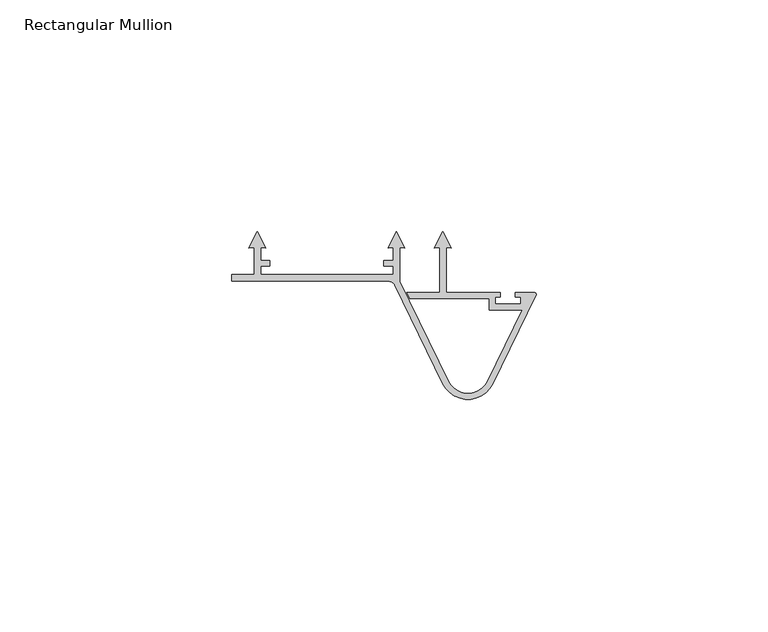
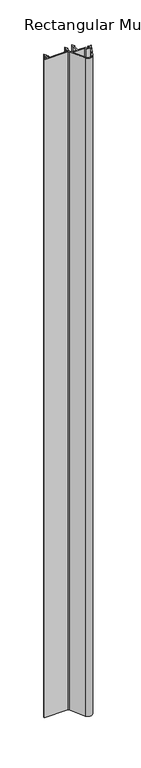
"""IFC4 building model written with IfcOpenShell, lengths in millimetres: member geometry, Rectangular Mullion : Renson_Linarte_LA-CO-05."""

from ifc_helpers import new_model, si_unit, point, frame, frame_2d, origin, place, context, project, spatial, polyline, circle_curve, trimmed, segment, composite_curve, outline, extrude, source, transform, mapped, element, save


def rectangular_mullion_05be598c(model_context):
    return source(origin(), model_context, "Body", "SweptSolid", [
        extrude(outline(composite_curve([segment(polyline([(5.5, -25.4000002), (7.3157366, -28.9635877), (6.1999999, -28.8659734), (6.1999999, -31.6000001), (8.1999999, -31.6000001), (8.1999999, -32.8000002), (6.1999999, -32.8000002), (6.1999999, -34.6000004), (34.799999, -34.6000004), (34.799999, -32.8000002), (32.799999, -32.8000002), (32.799999, -31.6000001), (34.799999, -31.6000001), (34.799999, -28.8659734), (33.6842623, -28.9635877), (35.4999989, -25.4000002), (37.3157355, -28.9635877), (36.1999979, -28.8659733), (36.1999979, -36.1638661), (46.684531, -57.6603446)]), True, "CONTINUOUS"), segment(trimmed(circle_curve(frame_2d((50.908863, -55.6000002)), 4.7), [point((46.684531, -57.6603446))], [point((55.1331951, -57.6603446))], True, "CARTESIAN"), True, "CONTINUOUS"), segment(polyline([(55.1331951, -57.6603446), (62.6249357, -42.3), (55.4745348, -42.3), (55.4745348, -39.8), (38.3209532, -39.8), (37.6869008, -38.5), (44.8000003, -38.5), (44.8000003, -28.8659733), (43.6842623, -28.9635877), (45.4999989, -25.4000002), (47.3157355, -28.9635877), (46.1999989, -28.8659734), (46.1999989, -38.5), (57.9245348, -38.5), (57.9245348, -39.5), (56.7745348, -39.5), (56.7745348, -41.0), (62.2745348, -41.0), (62.2745348, -39.5), (61.1245348, -39.5), (61.1245348, -38.5), (65.1245348, -38.5)]), True, "CONTINUOUS"), segment(trimmed(circle_curve(frame_2d((65.1245348, -39.0)), 0.5), [point((65.1245348, -38.5))], [point((65.5739318, -39.2191856))], False, "CARTESIAN"), True, "CONTINUOUS"), segment(polyline([(65.5739318, -39.2191856), (56.3016273, -58.2302271)]), True, "CONTINUOUS"), segment(trimmed(circle_curve(frame_2d((50.908863, -55.6000002)), 6.0), [point((56.3016273, -58.2302271))], [point((45.5160988, -58.2302271))], False, "CARTESIAN"), True, "CONTINUOUS"), segment(polyline([(45.5160988, -58.2302271), (35.133353, -36.9424435)]), True, "CONTINUOUS"), segment(trimmed(circle_curve(frame_2d((33.7851619, -37.6000002)), 1.5), [point((35.133353, -36.9424435))], [point((33.7851619, -36.1000002))], True, "CARTESIAN"), True, "CONTINUOUS"), segment(polyline([(33.7851619, -36.1000002), (0.0, -36.1000002), (0.0, -34.6000004), (4.7999996, -34.6000004), (4.7999996, -28.8659734), (3.6842634, -28.9635877), (5.5, -25.4000002)]), True, "CONTINUOUS")], self_intersect=False)), frame((0.0, 0.0, -1000.0), z_axis=(0.0, 0.0, 1.0), x_axis=(1.0, 0.0, 0.0)), (0.0, 0.0, 1.0), 1000.0),
    ])


if __name__ == "__main__":
    model = new_model("IFC4")
    model_context = context("Model", 3, world=origin())
    ifc_project = project(units=[si_unit("LENGTHUNIT", "METRE", prefix="MILLI")], contexts=[model_context])
    site = spatial("IfcSite", under=ifc_project)
    building = spatial("IfcBuilding", under=site)
    placement = place(None, origin())
    rectangular_mullion_shape = rectangular_mullion_05be598c(model_context)
    element("IfcMember", 1, ObjectType="Rectangular Mullion : Renson_Linarte_LA-CO-05", at=placement, inside=building, context=model_context, shape_type="MappedRepresentation", body=[
        mapped(rectangular_mullion_shape, transform((0.0, 0.0, 0.0), x_axis=(1.0, 0.0, 0.0), y_axis=(0.0, 1.0, 0.0), z_axis=(0.0, 0.0, 1.0))),
    ])
    save(model, "model.ifc")
